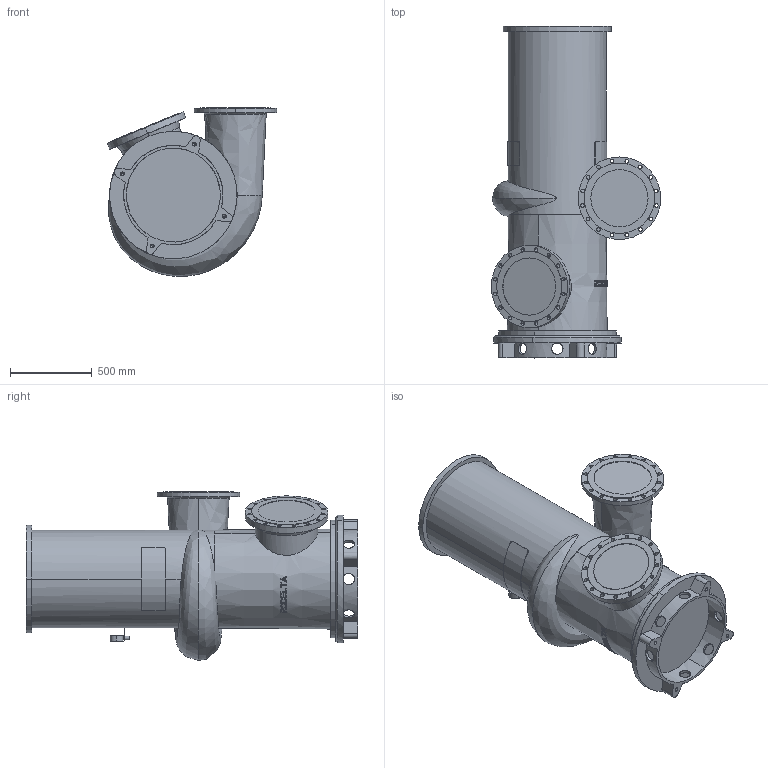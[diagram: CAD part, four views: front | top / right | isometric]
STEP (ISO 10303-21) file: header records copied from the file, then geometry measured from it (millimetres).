
FILE_DESCRIPTION((''),'2;1');
FILE_NAME('14-408_BLAD_ASM','2024-08-07T',('Lyritlocal'),(''),'PRO/ENGINEER BY PARAMETRIC TECHNOLOGY CORPORATION, 2016360','PRO/ENGINEER BY PARAMETRIC TECHNOLOGY CORPORATION, 2016360','');
FILE_SCHEMA(('CONFIG_CONTROL_DESIGN'));
Length unit declared in the file: millimetre
Products named in the file (3): 14-408; 14-408_VOET; 14-408_BLAD_ASM
Assembly tree (2 placements, depth 2):
  14-408_BLAD_ASM
    14-408
    14-408_VOET
Bounding box: 1036.46 x 2030 x 1032.54 mm (x, y, z)
Volume: 689139970.2 mm3; surface area: 7600964.2 mm2
Topology: 2 solids, 6 shells, 519 faces, 1412 edges, 930 vertices
Faces by surface type: plane 323, cylinder 154, cone 36, bspline 6
Entity records: 18592 total; most frequent: CARTESIAN_POINT 5752, ORIENTED_EDGE 2792, DIRECTION 2423, EDGE_CURVE 1404, AXIS2_PLACEMENT_3D 943, VERTEX_POINT 930, EDGE_LOOP 640, VECTOR 537
